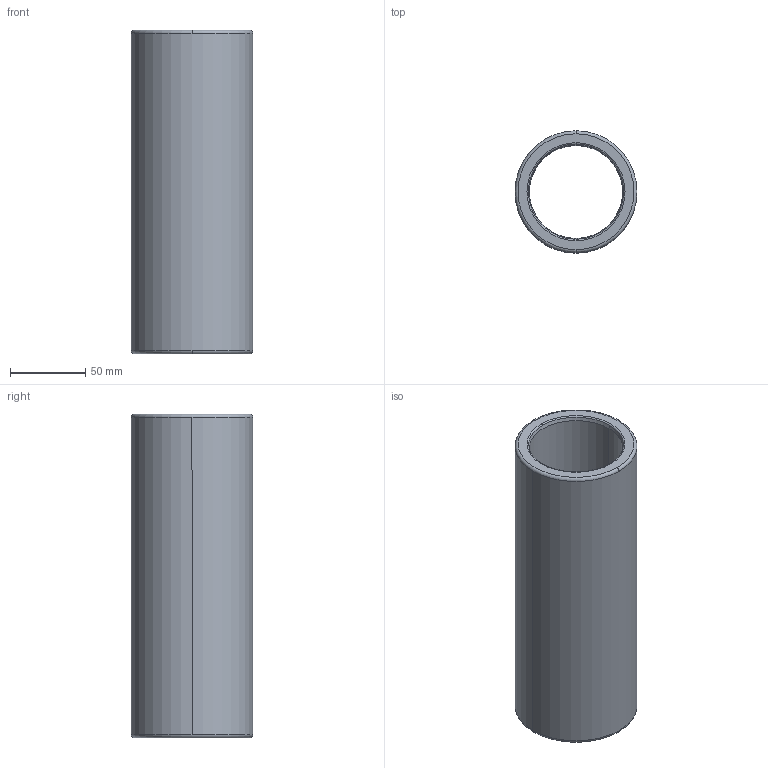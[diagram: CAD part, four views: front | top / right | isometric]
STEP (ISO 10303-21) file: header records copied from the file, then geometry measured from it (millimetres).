
FILE_DESCRIPTION((''),'2;1');
FILE_NAME('B30_050_215.stp','2009-01-12T10:58:39',(''),(''),'Mechanical Desktop 2009','Mechanical Desktop 2009',', , ');
FILE_SCHEMA(('CONFIG_CONTROL_DESIGN'));
Length unit declared in the file: millimetre
Products named in the file (2): Product; blmdl1
Assembly tree (1 placements, depth 2):
  Product
    blmdl1
Bounding box: 80.98 x 80.98 x 215 mm (x, y, z)
Volume: 458191.9 mm3; surface area: 100031.9 mm2
Topology: 1 solids, 1 shells, 18 faces, 48 edges, 32 vertices
Faces by surface type: torus 8, cylinder 4, cone 4, plane 2
Entity records: 705 total; most frequent: DIRECTION 128, CARTESIAN_POINT 100, ORIENTED_EDGE 96, AXIS2_PLACEMENT_3D 60, EDGE_CURVE 48, CIRCLE 40, VERTEX_POINT 32, EDGE_LOOP 20
